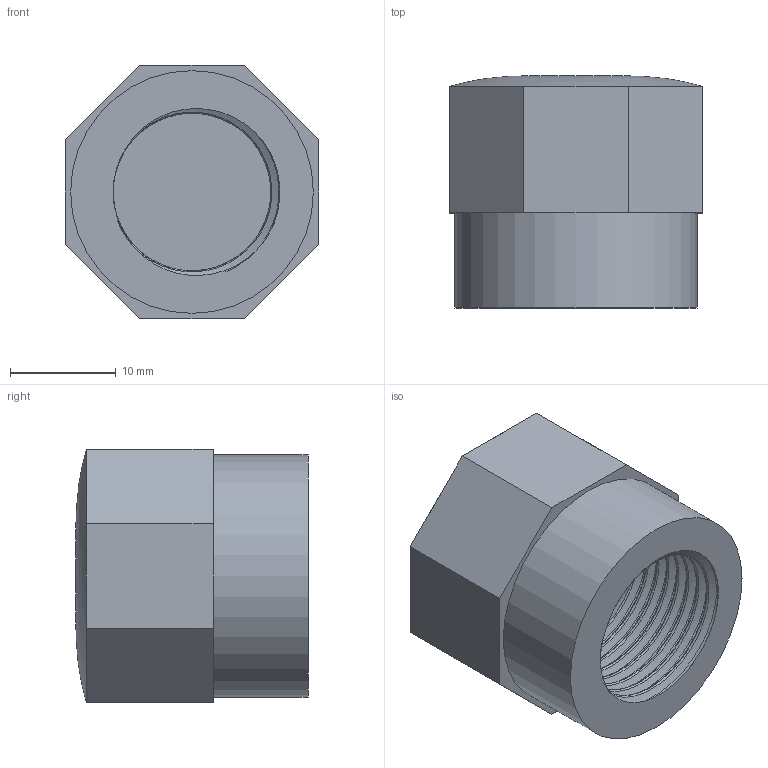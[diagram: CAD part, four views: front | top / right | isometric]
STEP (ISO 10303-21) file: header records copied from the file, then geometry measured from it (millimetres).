
FILE_DESCRIPTION(/* description */ ('PVC calotta filettata BSP'),/* implementation_level */ '2;1');
FILE_NAME(/* name */ 'C:\Users\POLYPIPE\Desktop\DATASET INVENTOR\LIBRERIA EFFAST\RACCORDI 3DxWEB\RER\3D_RERCAE\3D_RERCAE016A.stp',/* time_stamp */ '2018-01-19T15:56:48+01:00',/* author */ ('POLYPIPE'),/* organization */ ('Polypipe Italia s.r.l.'),/* preprocessor_version */ 'ST-DEVELOPER v16.1',/* originating_system */ 'Autodesk Inventor 2016',/* authorisation */ '');
FILE_SCHEMA (('CONFIG_CONTROL_DESIGN'));
Length unit declared in the file: millimetre
Products named in the file (1): 3D_RERCAE
Bounding box: 24 x 22 x 24 mm (x, y, z)
Volume: 6559.3 mm3; surface area: 3751.1 mm2
Topology: 1 solids, 1 shells, 30 faces, 68 edges, 42 vertices
Faces by surface type: plane 21, bspline 6, cylinder 3
Full cylindrical faces by diameter (mm): 10 x1, 14.95 x1, 23 x1
Entity records: 3935 total; most frequent: CARTESIAN_POINT 3286, ORIENTED_EDGE 128, DIRECTION 119, EDGE_CURVE 64, AXIS2_PLACEMENT_3D 42, VERTEX_POINT 41, LINE 35, VECTOR 35
